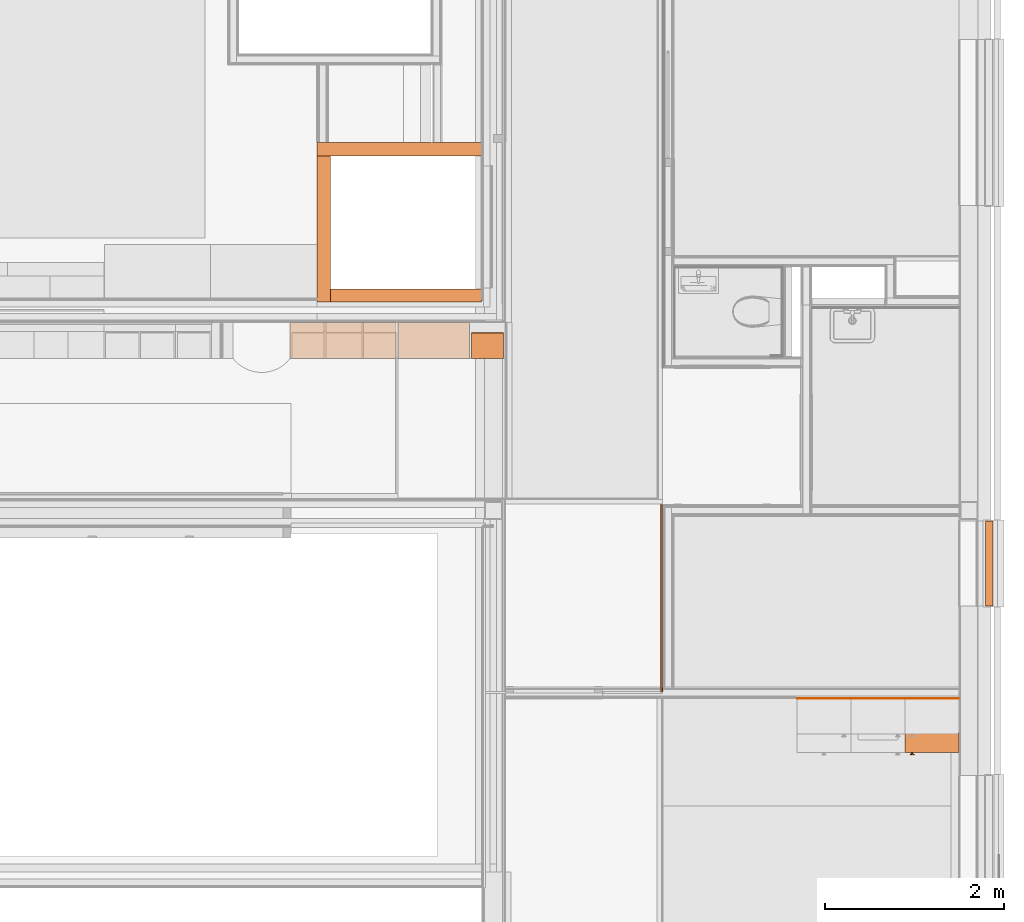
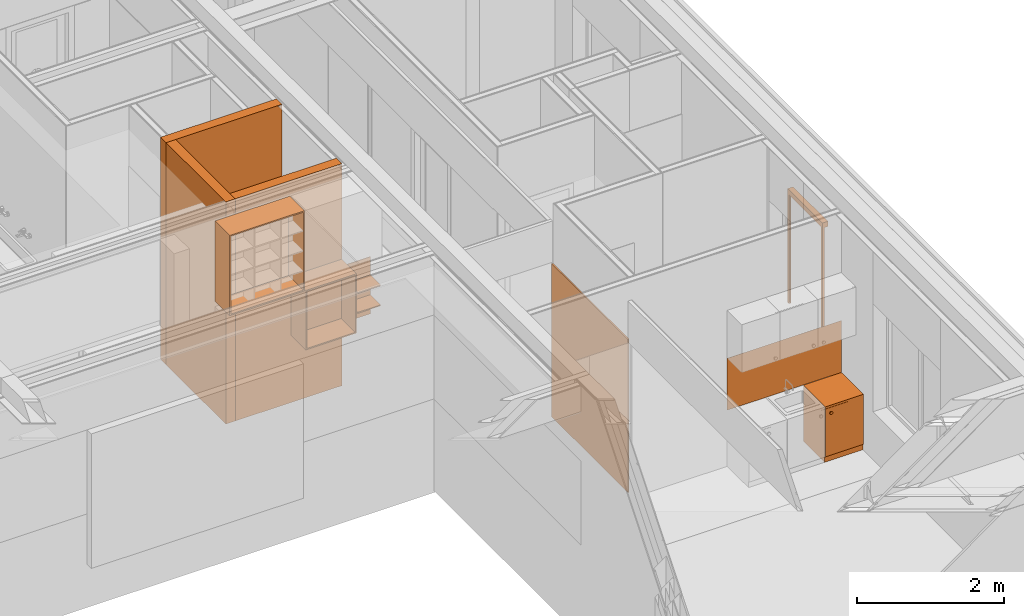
# One storey, part 131 of 137: 10 proxies.
"""IFC2X3 building model written with IfcOpenShell, lengths in millimetres."""

from ifc_helpers import new_model, entity, si_unit, converted_unit, derived_unit, money_unit, direction, frame, origin_with_axes, place, context, subcontext, project, spatial, open_shell, faceted_brep, surface_model, material, type_object, element, save


model = new_model("IFC2X3")

# Units and contexts
model_context = context("Model", 3, precision=0.01, world=origin_with_axes(), true_north=direction((0.0, 1.0)))
body_context = subcontext(model_context, "Body", "Model", "MODEL_VIEW")
ifc_project = project(units=[si_unit("LENGTHUNIT", "METRE", prefix="MILLI"), si_unit("AREAUNIT", "SQUARE_METRE"), si_unit("VOLUMEUNIT", "CUBIC_METRE"), converted_unit("PLANEANGLEUNIT", "DEGREE", entity("IfcPlaneAngleMeasure", 0.0174532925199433), si_unit("PLANEANGLEUNIT", "RADIAN"), dimensions=[0, 0, 0, 0, 0, 0, 0]), money_unit("EUR"), converted_unit("TIMEUNIT", "Year", entity("IfcTimeMeasure", 31556926.0), si_unit("TIMEUNIT", "SECOND"), dimensions=[0, 0, 1, 0, 0, 0, 0]), si_unit("MASSUNIT", "GRAM", prefix="KILO"), si_unit("THERMODYNAMICTEMPERATUREUNIT", "DEGREE_CELSIUS"), si_unit("LUMINOUSINTENSITYUNIT", "LUMEN"), si_unit("ENERGYUNIT", "JOULE", prefix="MEGA"), derived_unit("THERMALCONDUCTANCEUNIT", [(si_unit("POWERUNIT", "WATT"), 1), (si_unit("LENGTHUNIT", "METRE"), -1), (si_unit("THERMODYNAMICTEMPERATUREUNIT", "KELVIN"), -1)]), derived_unit("SPECIFICHEATCAPACITYUNIT", [(si_unit("ENERGYUNIT", "JOULE"), 1), (si_unit("MASSUNIT", "GRAM", prefix="KILO"), -1), (si_unit("THERMODYNAMICTEMPERATUREUNIT", "KELVIN"), -1)]), derived_unit("MASSDENSITYUNIT", [(si_unit("MASSUNIT", "GRAM", prefix="KILO"), 1), (si_unit("VOLUMEUNIT", "CUBIC_METRE"), -1)])], contexts=[model_context])

# Site, building, storey
site_placement = place(None, origin_with_axes())
site = spatial("IfcSite", under=ifc_project, at=site_placement, Name="Site", CompositionType="ELEMENT")
building_placement = place(site_placement, origin_with_axes())
building = spatial("IfcBuilding", under=site, at=building_placement, Name="Naam gebouw", CompositionType="ELEMENT")
storey_placement = place(building_placement, frame((0.0, 0.0, 3960.0), z_axis=(0.0, 0.0, 1.0), x_axis=(1.0, 0.0, 0.0)))
storey = spatial("IfcBuildingStorey", under=building, at=storey_placement, Name="1e verdieping", CompositionType="ELEMENT", Elevation=3960.0)

# Proxies
ifc_material_1 = material(Name="Steen - Kalkzandsteen C")
building_element_proxy_type_1 = type_object("IfcBuildingElementProxyType", Name="KZ 150 150", PredefinedType="NOTDEFINED")
proxy_1_placement = place(storey_placement, frame((22684.99903999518, 13279.99770206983, -100.0000000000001), z_axis=(0.0, 0.0, 1.0), x_axis=(1.0, 0.0, 0.0)))
element("IfcBuildingElementProxy", 1, at=proxy_1_placement, inside=storey, type_object=building_element_proxy_type_1, material=ifc_material_1, Name="f1 Gebonden met kalk_Wand-x", context=body_context, shape_type="Brep", body=[
    faceted_brep([(1680.0, -150.0000000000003, 3700.0), (1680.0, -150.0000000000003, 3695.000029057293), (1680.0, 0.0, 3695.000029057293), (1680.0, 0.0, 3700.0), (1614.999999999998, -150.0000000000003, 3685.000029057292), (1614.999999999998, -150.0000000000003, 3695.000029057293), (0.0, -150.0000000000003, 3700.0), (0.0, -150.0000000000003, 0.0), (1680.0, -150.0000000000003, 0.0), (1680.0, -150.0000000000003, 3685.000029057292), (1614.999999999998, 0.0, 3695.000029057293), (1614.999999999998, 0.0, 3685.000029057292), (1680.0, 0.0, 3685.000029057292), (1680.0, 0.0, 0.0), (0.0, 0.0, 0.0), (0.0, 0.0, 3700.0)], [[[0, 1, 2, 3]], [[4, 5, 1, 0, 6, 7, 8, 9]], [[5, 10, 2, 1]], [[10, 11, 12, 13, 14, 15, 3, 2]], [[15, 6, 0, 3]], [[4, 11, 10, 5]], [[6, 15, 14, 7]], [[7, 14, 13, 8]], [[13, 12, 9, 8]], [[4, 9, 12, 11]]]),
])
proxy_2_placement = place(storey_placement, frame((24364.99903999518, 14759.99770206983, -100.0000000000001), z_axis=(0.0, 0.0, 1.0), x_axis=(-1.0, 0.0, 0.0)))
element("IfcBuildingElementProxy", 2, at=proxy_2_placement, inside=storey, type_object=building_element_proxy_type_1, material=ifc_material_1, Name="f1 Gebonden met kalk_Wand-x", context=body_context, shape_type="Brep", body=[
    faceted_brep([(0.0, 0.0, 3700.0), (0.0, 0.0, 3695.000029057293), (0.0, -150.0000000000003, 3695.000029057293), (0.0, -150.0000000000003, 3700.0), (65.00000000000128, 0.0, 3685.000029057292), (65.00000000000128, 0.0, 3695.000029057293), (1829.999999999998, 0.0, 3700.0), (1829.999999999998, 0.0, 0.0), (0.0, 0.0, 0.0), (0.0, 0.0, 3685.000029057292), (65.00000000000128, -149.9999999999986, 3695.000029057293), (65.00000000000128, -149.9999999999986, 3685.000029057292), (0.0, -150.0000000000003, 3685.000029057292), (0.0, -150.0000000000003, 0.0), (1829.999999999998, -149.9999999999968, 0.0), (1829.999999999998, -149.9999999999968, 3700.0)], [[[0, 1, 2, 3]], [[4, 5, 1, 0, 6, 7, 8, 9]], [[5, 10, 2, 1]], [[10, 11, 12, 13, 14, 15, 3, 2]], [[3, 15, 6, 0]], [[4, 11, 10, 5]], [[15, 14, 7, 6]], [[8, 7, 14, 13]], [[13, 12, 9, 8]], [[4, 9, 12, 11]]]),
])
proxy_3_placement = place(storey_placement, frame((22684.99903999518, 14759.99770206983, -100.0000000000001), z_axis=(0.0, 0.0, 1.0), x_axis=(0.0, -1.0, 0.0)))
element("IfcBuildingElementProxy", 3, at=proxy_3_placement, inside=storey, type_object=building_element_proxy_type_1, material=ifc_material_1, Name="f1 Gebonden met kalk_Wand-x", context=body_context, shape_type="Brep", body=[
    faceted_brep([(1630.000000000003, 0.0, 0.0), (1630.000000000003, -149.9999999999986, 0.0), (0.0, -149.9999999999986, 0.0), (0.0, 0.0, 0.0), (1630.000000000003, 0.0, 3700.0), (1630.000000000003, -149.9999999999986, 3700.0), (0.0, -149.9999999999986, 3700.0), (0.0, 0.0, 3700.0)], [[[0, 1, 2, 3]], [[1, 0, 4, 5]], [[1, 5, 6, 2]], [[7, 3, 2, 6]], [[4, 0, 3, 7]], [[5, 4, 7, 6]]]),
])
ifc_material_2 = material(Name="ALG - ALGEMEEN")
building_element_proxy_type_2 = type_object("IfcBuildingElementProxyType", Name="ALG - ALGEMEEN 20", PredefinedType="NOTDEFINED")
proxy_4_placement = place(storey_placement, frame((26386.00000000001, 10872.50011055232, 49.99999999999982), z_axis=(0.0, 0.0, 1.0), x_axis=(0.0, -1.0, 0.0)))
element("IfcBuildingElementProxy", 4, at=proxy_4_placement, inside=storey, type_object=building_element_proxy_type_2, material=ifc_material_2, Name="_Wand-x", context=body_context, shape_type="Brep", body=[
    faceted_brep([(0.0, -19.99999999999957, 2550.0), (2082.500110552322, -19.99999999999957, 2550.0), (2082.500110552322, 0.0, 2550.0), (0.0, 0.0, 2550.0), (0.0, -19.99999999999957, 0.0), (2082.500110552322, -19.99999999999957, 0.0), (2082.500110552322, 0.0, 0.0), (0.0, 0.0, 0.0)], [[[0, 1, 2, 3]], [[4, 5, 1, 0]], [[2, 1, 5, 6]], [[3, 2, 6, 7]], [[4, 0, 3, 7]], [[7, 6, 5, 4]]]),
])
ifc_material_3 = material(Name="Hout - Multiplex")
building_element_proxy_type_3 = type_object("IfcBuildingElementProxyType", Name="Hout - Multiplex 1", PredefinedType="NOTDEFINED")
proxy_5_placement = place(storey_placement, frame((27886.00001122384, 8714.0, 937.0000000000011), z_axis=(0.0, 0.0, 1.0), x_axis=(1.0, 0.0, 0.0)))
element("IfcBuildingElementProxy", 5, at=proxy_5_placement, inside=storey, type_object=building_element_proxy_type_3, material=ifc_material_3, Name="i4 In lagen verlijmd hout_Leeg", context=body_context, shape_type="Brep", body=[
    faceted_brep([(0.0, 0.9999999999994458, 0.0), (1799.999988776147, 0.9999999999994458, 0.0), (1799.999988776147, 0.0, 0.0), (0.0, 0.0, 0.0), (0.0, 0.9999999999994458, 864.9999999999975), (1799.999988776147, 0.9999999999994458, 864.9999999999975), (1799.999988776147, 0.0, 864.9999999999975), (0.0, 0.0, 864.9999999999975)], [[[0, 1, 2, 3]], [[4, 5, 1, 0]], [[2, 1, 5, 6]], [[3, 2, 6, 7]], [[4, 0, 3, 7]], [[7, 6, 5, 4]]]),
])
building_element_proxy_type_4 = type_object("IfcBuildingElementProxyType", Name="Onderkast recht 26", PredefinedType="NOTDEFINED")
proxy_6_placement = place(storey_placement, frame((24234.99903999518, 12904.99778166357, 1199.999999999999), z_axis=(0.0, 0.0, 1.0), x_axis=(1.0, 0.0, 0.0)))
element("IfcBuildingElementProxy", 6, at=proxy_6_placement, inside=storey, type_object=building_element_proxy_type_4, Name="_Leeg", context=body_context, shape_type="Brep", body=[
    faceted_brep([(-20.0, -400.0000000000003, 0.0), (-20.0, -400.0000000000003, 20.0), (-779.9999999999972, -400.0000000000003, 20.0), (-779.9999999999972, -400.0000000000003, 0.0), (-20.0, 0.0, 0.0), (-20.0, 0.0, 20.0), (-779.9999999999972, 0.0, 20.0), (-779.9999999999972, 0.0, 0.0)], [[[0, 1, 2, 3]], [[4, 5, 1, 0]], [[1, 5, 6, 2]], [[3, 2, 6, 7]], [[0, 3, 7, 4]], [[7, 6, 5, 4]]]),
    faceted_brep([(-20.0, -400.0000000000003, 970.0000000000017), (-20.0, -400.0000000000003, 990.0000000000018), (-779.9999999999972, -400.0000000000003, 990.0000000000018), (-779.9999999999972, -400.0000000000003, 970.0000000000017), (-20.0, 0.0, 970.0000000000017), (-20.0, 0.0, 990.0000000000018), (-779.9999999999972, 0.0, 990.0000000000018), (-779.9999999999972, 0.0, 970.0000000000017)], [[[0, 1, 2, 3]], [[4, 5, 1, 0]], [[1, 5, 6, 2]], [[3, 2, 6, 7]], [[0, 3, 7, 4]], [[7, 6, 5, 4]]]),
    faceted_brep([(0.0, 0.0, 0.0), (0.0, 0.0, 990.0000000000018), (0.0, -400.0000000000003, 990.0000000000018), (0.0, -400.0000000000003, 0.0), (-20.0, 0.0, 0.0), (-20.0, 0.0, 990.0000000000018), (-20.0, -400.0000000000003, 990.0000000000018), (-20.0, -400.0000000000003, 0.0)], [[[0, 1, 2, 3]], [[4, 5, 1, 0]], [[1, 5, 6, 2]], [[3, 2, 6, 7]], [[0, 3, 7, 4]], [[7, 6, 5, 4]]]),
    faceted_brep([(-799.9999999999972, -400.0000000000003, 0.0), (-799.9999999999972, -400.0000000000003, 990.0000000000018), (-799.9999999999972, 0.0, 990.0000000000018), (-799.9999999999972, 0.0, 0.0), (-779.9999999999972, -400.0000000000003, 0.0), (-779.9999999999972, -400.0000000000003, 990.0000000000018), (-779.9999999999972, 0.0, 990.0000000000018), (-779.9999999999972, 0.0, 0.0)], [[[0, 1, 2, 3]], [[4, 5, 1, 0]], [[1, 5, 6, 2]], [[3, 2, 6, 7]], [[0, 3, 7, 4]], [[7, 6, 5, 4]]]),
    faceted_brep([(-779.9999999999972, -10.0, 20.0), (-779.9999999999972, -10.0, 970.0000000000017), (-20.00000000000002, -10.0, 970.0000000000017), (-20.00000000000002, -10.0, 20.0), (-779.9999999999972, -20.0, 20.0), (-779.9999999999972, -20.0, 970.0000000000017), (-20.00000000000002, -20.0, 970.0000000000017), (-20.00000000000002, -20.0, 20.0)], [[[0, 1, 2, 3]], [[4, 5, 1, 0]], [[1, 5, 6, 2]], [[3, 2, 6, 7]], [[0, 3, 7, 4]], [[7, 6, 5, 4]]]),
])
proxy_7_placement = place(storey_placement, frame((24634.99903999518, 12804.99778166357, 1199.999999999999), z_axis=(0.0, 0.0, 1.0), x_axis=(1.0, 0.0, 0.0)))
element("IfcBuildingElementProxy", 7, at=proxy_7_placement, inside=storey, type_object=building_element_proxy_type_4, Name="_Leeg", context=body_context, shape_type="Brep", body=[
    faceted_brep([(-379.999999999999, -300.0000000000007, 321.0000000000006), (-19.99999999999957, -300.0000000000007, 321.0000000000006), (-19.99999999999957, -300.0000000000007, 339.0000000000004), (-379.999999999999, -300.0000000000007, 339.0000000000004), (-19.99999999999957, -19.99999999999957, 321.0000000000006), (-379.999999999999, -19.99999999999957, 321.0000000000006), (-19.99999999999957, -19.99999999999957, 339.0000000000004), (-379.999999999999, -19.99999999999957, 339.0000000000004)], [[[0, 1, 2, 3]], [[4, 1, 0, 5]], [[1, 4, 6, 2]], [[3, 2, 6, 7]], [[5, 0, 3, 7]], [[4, 5, 7, 6]]]),
    faceted_brep([(-379.999999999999, -300.0000000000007, 651.0000000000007), (-19.99999999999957, -300.0000000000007, 651.0000000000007), (-19.99999999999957, -300.0000000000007, 669.0000000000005), (-379.999999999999, -300.0000000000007, 669.0000000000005), (-19.99999999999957, -19.99999999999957, 651.0000000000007), (-379.999999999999, -19.99999999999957, 651.0000000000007), (-19.99999999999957, -19.99999999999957, 669.0000000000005), (-379.999999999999, -19.99999999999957, 669.0000000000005)], [[[0, 1, 2, 3]], [[4, 1, 0, 5]], [[1, 4, 6, 2]], [[3, 2, 6, 7]], [[5, 0, 3, 7]], [[4, 5, 7, 6]]]),
    faceted_brep([(-19.99999999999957, -9.999999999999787, 19.99999999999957), (-379.999999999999, -9.999999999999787, 19.99999999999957), (-379.999999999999, -9.999999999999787, 970.0000000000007), (-19.99999999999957, -9.999999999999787, 970.0000000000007), (-379.999999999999, -19.99999999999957, 19.99999999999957), (-19.99999999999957, -19.99999999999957, 19.99999999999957), (-379.999999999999, -19.99999999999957, 970.0000000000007), (-19.99999999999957, -19.99999999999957, 970.0000000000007)], [[[0, 1, 2, 3]], [[4, 1, 0, 5]], [[1, 4, 6, 2]], [[3, 2, 6, 7]], [[5, 0, 3, 7]], [[4, 5, 7, 6]]]),
])
proxy_8_placement = place(storey_placement, frame((29686.00001122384, 8715.0, 0.0), z_axis=(0.0, 0.0, 1.0), x_axis=(1.0, 0.0, 0.0)))
element("IfcBuildingElementProxy", 8, at=proxy_8_placement, inside=storey, type_object=building_element_proxy_type_4, Name="_Leeg", context=body_context, shape_type="Brep", body=[
    faceted_brep([(0.0, -600.0, 900.0), (0.0, -600.0, 935.0), (-600.0, -600.0, 935.0), (-600.0, -600.0, 900.0), (0.0, 0.0, 900.0), (0.0, 0.0, 935.0), (-600.0, 0.0, 935.0), (-600.0, 0.0, 900.0)], [[[0, 1, 2, 3]], [[4, 5, 1, 0]], [[1, 5, 6, 2]], [[3, 2, 6, 7]], [[0, 3, 7, 4]], [[7, 6, 5, 4]]]),
    faceted_brep([(-531.817693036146, -600.0, 817.9162218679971), (-531.9999999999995, -600.0, 820.0000000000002), (-531.8176930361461, -600.0, 822.0837781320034), (-531.2763114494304, -600.0, 824.1042417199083), (-530.3923048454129, -600.0, 826.0000000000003), (-529.1925333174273, -600.0, 827.7134513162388), (-527.713451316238, -600.0, 829.192533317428), (-525.9999999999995, -600.0, 830.3923048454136), (-524.1042417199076, -600.0, 831.2763114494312), (-522.0837781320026, -600.0, 831.8176930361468), (-519.9999999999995, -600.0, 832.0000000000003), (-517.9162218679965, -600.0, 831.8176930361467), (-515.8957582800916, -600.0, 831.2763114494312), (-513.9999999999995, -600.0, 830.3923048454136), (-512.2865486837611, -600.0, 829.192533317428), (-510.8074666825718, -600.0, 827.7134513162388), (-509.6076951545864, -600.0, 826.0000000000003), (-508.7236885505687, -600.0, 824.1042417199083), (-508.1823069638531, -600.0, 822.0837781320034), (-507.9999999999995, -600.0, 820.0000000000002), (-508.1823069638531, -600.0, 817.9162218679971), (-508.7236885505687, -600.0, 815.8957582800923), (-509.6076951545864, -600.0, 814.0000000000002), (-510.8074666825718, -600.0, 812.2865486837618), (-512.2865486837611, -600.0, 810.8074666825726), (-513.9999999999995, -600.0, 809.6076951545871), (-515.8957582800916, -600.0, 808.7236885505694), (-517.9162218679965, -600.0, 808.1823069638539), (-519.9999999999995, -600.0, 808.0000000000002), (-522.0837781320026, -600.0, 808.1823069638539), (-524.1042417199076, -600.0, 808.7236885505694), (-525.9999999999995, -600.0, 809.6076951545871), (-527.713451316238, -600.0, 810.8074666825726), (-529.1925333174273, -600.0, 812.2865486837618), (-530.3923048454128, -600.0, 814.0000000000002), (-531.2763114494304, -600.0, 815.8957582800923), (-531.817693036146, -620.0, 817.9162218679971), (-531.9999999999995, -620.0, 820.0000000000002), (-531.8176930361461, -620.0, 822.0837781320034), (-531.2763114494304, -620.0, 824.1042417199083), (-530.3923048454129, -620.0, 826.0000000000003), (-529.1925333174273, -620.0, 827.7134513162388), (-527.713451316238, -620.0, 829.192533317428), (-525.9999999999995, -620.0, 830.3923048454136), (-524.1042417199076, -620.0, 831.2763114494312), (-522.0837781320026, -620.0, 831.8176930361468), (-519.9999999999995, -620.0, 832.0000000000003), (-517.9162218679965, -620.0, 831.8176930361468), (-515.8957582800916, -620.0, 831.2763114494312), (-513.9999999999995, -620.0, 830.3923048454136), (-512.2865486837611, -620.0, 829.192533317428), (-510.8074666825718, -620.0, 827.7134513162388), (-509.6076951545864, -620.0, 826.0000000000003), (-508.7236885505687, -620.0, 824.1042417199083), (-508.1823069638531, -620.0, 822.0837781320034), (-507.9999999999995, -620.0, 820.0000000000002), (-508.1823069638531, -620.0, 817.9162218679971), (-508.7236885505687, -620.0, 815.8957582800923), (-509.6076951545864, -620.0, 814.0000000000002), (-510.8074666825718, -620.0, 812.2865486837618), (-512.2865486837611, -620.0, 810.8074666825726), (-513.9999999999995, -620.0, 809.6076951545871), (-515.8957582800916, -620.0, 808.7236885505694), (-517.9162218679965, -620.0, 808.1823069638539), (-519.9999999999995, -620.0, 808.0000000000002), (-522.0837781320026, -620.0, 808.1823069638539), (-524.1042417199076, -620.0, 808.7236885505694), (-525.9999999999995, -620.0, 809.6076951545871), (-527.713451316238, -620.0, 810.8074666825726), (-529.1925333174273, -620.0, 812.2865486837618), (-530.3923048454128, -620.0, 814.0000000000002), (-531.2763114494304, -620.0, 815.8957582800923)], [[[0, 1, 2, 3, 4, 5, 6, 7, 8, 9, 10, 11, 12, 13, 14, 15, 16, 17, 18, 19, 20, 21, 22, 23, 24, 25, 26, 27, 28, 29, 30, 31, 32, 33, 34, 35]], [[0, 36, 37, 1]], [[1, 37, 38, 2]], [[2, 38, 39, 3]], [[3, 39, 40, 4]], [[4, 40, 41, 5]], [[5, 41, 42, 6]], [[6, 42, 43, 7]], [[7, 43, 44, 8]], [[8, 44, 45, 9]], [[9, 45, 46, 10]], [[10, 46, 47, 11]], [[11, 47, 48, 12]], [[12, 48, 49, 13]], [[13, 49, 50, 14]], [[14, 50, 51, 15]], [[15, 51, 52, 16]], [[16, 52, 53, 17]], [[17, 53, 54, 18]], [[18, 54, 55, 19]], [[19, 55, 56, 20]], [[20, 56, 57, 21]], [[21, 57, 58, 22]], [[22, 58, 59, 23]], [[23, 59, 60, 24]], [[24, 60, 61, 25]], [[25, 61, 62, 26]], [[26, 62, 63, 27]], [[27, 63, 64, 28]], [[28, 64, 65, 29]], [[29, 65, 66, 30]], [[30, 66, 67, 31]], [[31, 67, 68, 32]], [[32, 68, 69, 33]], [[33, 69, 70, 34]], [[34, 70, 71, 35]], [[35, 71, 36, 0]], [[36, 71, 70, 69, 68, 67, 66, 65, 64, 63, 62, 61, 60, 59, 58, 57, 56, 55, 54, 53, 52, 51, 50, 49, 48, 47, 46, 45, 44, 43, 42, 41, 40, 39, 38, 37]]]),
    faceted_brep([(-543.6353860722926, -620.0, 815.8324437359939), (-543.9999999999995, -620.0, 820.0000000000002), (-543.6353860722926, -620.0, 824.1675562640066), (-542.5526228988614, -620.0, 828.2084834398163), (-540.7846096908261, -620.0, 832.0000000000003), (-538.3850666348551, -620.0, 835.4269026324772), (-535.4269026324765, -620.0, 838.3850666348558), (-531.9999999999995, -620.0, 840.7846096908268), (-528.2084834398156, -620.0, 842.5526228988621), (-524.167556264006, -620.0, 843.6353860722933), (-519.9999999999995, -620.0, 844.0000000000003), (-515.8324437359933, -620.0, 843.6353860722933), (-511.7915165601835, -620.0, 842.5526228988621), (-507.9999999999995, -620.0, 840.7846096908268), (-504.5730973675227, -620.0, 838.3850666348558), (-501.6149333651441, -620.0, 835.4269026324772), (-499.2153903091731, -620.0, 832.0000000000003), (-497.4473771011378, -620.0, 828.2084834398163), (-496.3646139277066, -620.0, 824.1675562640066), (-495.9999999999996, -620.0, 820.0000000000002), (-496.3646139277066, -620.0, 815.8324437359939), (-497.4473771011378, -620.0, 811.7915165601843), (-499.2153903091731, -620.0, 808.0000000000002), (-501.6149333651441, -620.0, 804.5730973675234), (-504.5730973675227, -620.0, 801.6149333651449), (-507.9999999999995, -620.0, 799.2153903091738), (-511.7915165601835, -620.0, 797.4473771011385), (-515.8324437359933, -620.0, 796.3646139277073), (-519.9999999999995, -620.0, 796.0000000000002), (-524.167556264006, -620.0, 796.3646139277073), (-528.2084834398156, -620.0, 797.4473771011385), (-531.9999999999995, -620.0, 799.2153903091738), (-535.4269026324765, -620.0, 801.6149333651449), (-538.385066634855, -620.0, 804.5730973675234), (-540.7846096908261, -620.0, 808.0000000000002), (-542.5526228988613, -620.0, 811.7915165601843), (-543.6353860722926, -630.0, 815.8324437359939), (-543.9999999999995, -630.0, 820.0000000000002), (-543.6353860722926, -630.0, 824.1675562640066), (-542.5526228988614, -630.0, 828.2084834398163), (-540.7846096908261, -630.0, 832.0000000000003), (-538.3850666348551, -630.0, 835.4269026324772), (-535.4269026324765, -630.0, 838.3850666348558), (-531.9999999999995, -630.0, 840.7846096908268), (-528.2084834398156, -630.0, 842.5526228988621), (-524.167556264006, -630.0, 843.6353860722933), (-519.9999999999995, -630.0, 844.0000000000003), (-515.8324437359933, -630.0, 843.6353860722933), (-511.7915165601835, -630.0, 842.5526228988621), (-507.9999999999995, -630.0, 840.7846096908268), (-504.5730973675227, -630.0, 838.3850666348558), (-501.6149333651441, -630.0, 835.4269026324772), (-499.2153903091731, -630.0, 832.0000000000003), (-497.4473771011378, -630.0, 828.2084834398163), (-496.3646139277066, -630.0, 824.1675562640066), (-495.9999999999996, -630.0, 820.0000000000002), (-496.3646139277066, -630.0, 815.8324437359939), (-497.4473771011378, -630.0, 811.7915165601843), (-499.2153903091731, -630.0, 808.0000000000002), (-501.6149333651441, -630.0, 804.5730973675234), (-504.5730973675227, -630.0, 801.6149333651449), (-507.9999999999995, -630.0, 799.2153903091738), (-511.7915165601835, -630.0, 797.4473771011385), (-515.8324437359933, -630.0, 796.3646139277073), (-519.9999999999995, -630.0, 796.0000000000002), (-524.167556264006, -630.0, 796.3646139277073), (-528.2084834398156, -630.0, 797.4473771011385), (-531.9999999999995, -630.0, 799.2153903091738), (-535.4269026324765, -630.0, 801.6149333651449), (-538.385066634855, -630.0, 804.5730973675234), (-540.7846096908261, -630.0, 808.0000000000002), (-542.5526228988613, -630.0, 811.7915165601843)], [[[0, 1, 2, 3, 4, 5, 6, 7, 8, 9, 10, 11, 12, 13, 14, 15, 16, 17, 18, 19, 20, 21, 22, 23, 24, 25, 26, 27, 28, 29, 30, 31, 32, 33, 34, 35]], [[0, 36, 37, 1]], [[1, 37, 38, 2]], [[2, 38, 39, 3]], [[3, 39, 40, 4]], [[4, 40, 41, 5]], [[5, 41, 42, 6]], [[6, 42, 43, 7]], [[7, 43, 44, 8]], [[8, 44, 45, 9]], [[9, 45, 46, 10]], [[10, 46, 47, 11]], [[11, 47, 48, 12]], [[12, 48, 49, 13]], [[13, 49, 50, 14]], [[14, 50, 51, 15]], [[15, 51, 52, 16]], [[16, 52, 53, 17]], [[17, 53, 54, 18]], [[18, 54, 55, 19]], [[19, 55, 56, 20]], [[20, 56, 57, 21]], [[21, 57, 58, 22]], [[22, 58, 59, 23]], [[23, 59, 60, 24]], [[24, 60, 61, 25]], [[25, 61, 62, 26]], [[26, 62, 63, 27]], [[27, 63, 64, 28]], [[28, 64, 65, 29]], [[29, 65, 66, 30]], [[30, 66, 67, 31]], [[31, 67, 68, 32]], [[32, 68, 69, 33]], [[33, 69, 70, 34]], [[34, 70, 71, 35]], [[35, 71, 36, 0]], [[36, 71, 70, 69, 68, 67, 66, 65, 64, 63, 62, 61, 60, 59, 58, 57, 56, 55, 54, 53, 52, 51, 50, 49, 48, 47, 46, 45, 44, 43, 42, 41, 40, 39, 38, 37]]]),
    faceted_brep([(-1.0, -582.0, 101.0), (-1.0, -600.0, 101.0), (-599.0, -600.0, 101.0), (-599.0, -582.0, 101.0), (-1.0, -582.0, 899.0), (-1.0, -599.9999999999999, 899.0), (-599.0, -599.9999999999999, 899.0), (-599.0, -582.0, 899.0)], [[[0, 1, 2, 3]], [[4, 5, 1, 0]], [[1, 5, 6, 2]], [[3, 2, 6, 7]], [[0, 3, 7, 4]], [[7, 6, 5, 4]]]),
    faceted_brep([(-18.0, -582.0, 100.0), (-18.0, -582.0, 118.0), (-582.0, -582.0, 118.0), (-582.0, -582.0, 100.0), (-18.0, 0.0, 100.0), (-18.0, 0.0, 118.0), (-582.0, 0.0, 118.0), (-582.0, 0.0, 100.0)], [[[0, 1, 2, 3]], [[4, 5, 1, 0]], [[1, 5, 6, 2]], [[3, 2, 6, 7]], [[0, 3, 7, 4]], [[7, 6, 5, 4]]]),
    faceted_brep([(-18.0, -582.0, 882.0), (-582.0, -582.0, 882.0), (-582.0, -522.0, 882.0), (-18.0, -522.0, 882.0), (-18.0, -582.0, 900.0), (-582.0, -582.0, 900.0), (-582.0, -522.0, 900.0), (-18.0, -522.0, 900.0)], [[[0, 1, 2, 3]], [[4, 5, 1, 0]], [[1, 5, 6, 2]], [[3, 2, 6, 7]], [[0, 3, 7, 4]], [[7, 6, 5, 4]]]),
    faceted_brep([(-582.0, 0.0, 882.0), (-18.0, 0.0, 882.0), (-18.0, -60.0, 882.0), (-582.0, -60.0, 882.0), (-582.0, 0.0, 900.0), (-18.0, 0.0, 900.0), (-18.0, -60.0, 900.0), (-582.0, -60.0, 900.0)], [[[0, 1, 2, 3]], [[4, 5, 1, 0]], [[1, 5, 6, 2]], [[3, 2, 6, 7]], [[0, 3, 7, 4]], [[7, 6, 5, 4]]]),
    faceted_brep([(0.0, 0.0, 100.0), (0.0, 0.0, 900.0), (0.0, -582.0, 900.0), (0.0, -582.0, 100.0), (-18.0, 0.0, 100.0), (-18.0, 0.0, 900.0), (-18.0, -582.0, 900.0), (-18.0, -582.0, 100.0)], [[[0, 1, 2, 3]], [[4, 5, 1, 0]], [[1, 5, 6, 2]], [[3, 2, 6, 7]], [[0, 3, 7, 4]], [[7, 6, 5, 4]]]),
    faceted_brep([(-600.0, -582.0, 100.0), (-600.0, -582.0, 900.0), (-600.0, 0.0, 900.0), (-600.0, 0.0, 100.0), (-582.0, -582.0, 100.0), (-582.0, -582.0, 900.0), (-582.0, 0.0, 900.0), (-582.0, 0.0, 100.0)], [[[0, 1, 2, 3]], [[4, 5, 1, 0]], [[1, 5, 6, 2]], [[3, 2, 6, 7]], [[0, 3, 7, 4]], [[7, 6, 5, 4]]]),
    faceted_brep([(-582.0, -9.0, 118.0), (-582.0, -9.0, 882.0), (-18.00000000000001, -9.0, 882.0), (-18.00000000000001, -9.0, 118.0), (-582.0, -18.0, 118.0), (-582.0, -18.0, 882.0), (-18.00000000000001, -18.0, 882.0), (-18.00000000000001, -18.0, 118.0)], [[[0, 1, 2, 3]], [[4, 5, 1, 0]], [[1, 5, 6, 2]], [[3, 2, 6, 7]], [[0, 3, 7, 4]], [[7, 6, 5, 4]]]),
    faceted_brep([(0.0, -582.0, 0.0), (0.0, -582.0, 100.0), (-600.0, -582.0, 100.0), (-600.0, -582.0, 0.0), (0.0, 0.0, 0.0), (0.0, 0.0, 100.0), (-600.0, 0.0, 100.0), (-600.0, 0.0, 0.0)], [[[0, 1, 2, 3]], [[4, 5, 1, 0]], [[1, 5, 6, 2]], [[3, 2, 6, 7]], [[0, 3, 7, 4]], [[7, 6, 5, 4]]]),
])
proxy_9_placement = place(storey_placement, frame((22234.99903999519, 12504.99778166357, 2190.000000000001), z_axis=(0.0, 0.0, 1.0), x_axis=(-1.0, 0.0, 0.0)))
element("IfcBuildingElementProxy", 9, at=proxy_9_placement, inside=storey, type_object=building_element_proxy_type_4, Name="_Leeg", context=body_context, shape_type="Brep", body=[
    faceted_brep([(-20.0, -399.9999999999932, 0.0), (-20.0, -399.9999999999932, 20.0), (-1159.999999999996, -399.9999999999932, 20.0), (-1159.999999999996, -399.9999999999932, 0.0), (-20.0, 0.0, 0.0), (-20.0, 0.0, 20.0), (-1159.999999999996, 0.0, 20.0), (-1159.999999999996, 0.0, 0.0)], [[[0, 1, 2, 3]], [[4, 5, 1, 0]], [[1, 5, 6, 2]], [[3, 2, 6, 7]], [[0, 3, 7, 4]], [[7, 6, 5, 4]]]),
    faceted_brep([(-20.0, -399.9999999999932, 1317.0), (-20.0, -399.9999999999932, 1337.0), (-1159.999999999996, -399.9999999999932, 1337.0), (-1159.999999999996, -399.9999999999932, 1317.0), (-20.0, 0.0, 1317.0), (-20.0, 0.0, 1337.0), (-1159.999999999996, 0.0, 1337.0), (-1159.999999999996, 0.0, 1317.0)], [[[0, 1, 2, 3]], [[4, 5, 1, 0]], [[1, 5, 6, 2]], [[3, 2, 6, 7]], [[0, 3, 7, 4]], [[7, 6, 5, 4]]]),
    faceted_brep([(0.0, 0.0, 0.0), (0.0, 0.0, 1337.0), (0.0, -399.9999999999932, 1337.0), (0.0, -399.9999999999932, 0.0), (-20.0, 0.0, 0.0), (-20.0, 0.0, 1337.0), (-20.0, -399.9999999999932, 1337.0), (-20.0, -399.9999999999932, 0.0)], [[[0, 1, 2, 3]], [[4, 5, 1, 0]], [[1, 5, 6, 2]], [[3, 2, 6, 7]], [[0, 3, 7, 4]], [[7, 6, 5, 4]]]),
    faceted_brep([(-1179.999999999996, -399.9999999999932, 0.0), (-1179.999999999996, -399.9999999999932, 1337.0), (-1179.999999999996, 0.0, 1337.0), (-1179.999999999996, 0.0, 0.0), (-1159.999999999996, -399.9999999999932, 0.0), (-1159.999999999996, -399.9999999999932, 1337.0), (-1159.999999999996, 0.0, 1337.0), (-1159.999999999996, 0.0, 0.0)], [[[0, 1, 2, 3]], [[4, 5, 1, 0]], [[1, 5, 6, 2]], [[3, 2, 6, 7]], [[0, 3, 7, 4]], [[7, 6, 5, 4]]]),
])
building_element_proxy_type_5 = type_object("IfcBuildingElementProxyType", Name="Screen 26 KM", PredefinedType="NOTDEFINED")
proxy_10_placement = place(storey_placement, frame((29981.99999999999, 9745.000110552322, 794.9999999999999), z_axis=(0.0, 0.0, 1.0), x_axis=(0.0, 1.0, 0.0)))
element("IfcBuildingElementProxy", 10, at=proxy_10_placement, inside=storey, type_object=building_element_proxy_type_5, Name="_Object-x", context=body_context, shape_type="SurfaceModel", body=[
    faceted_brep([(0.0, 0.0, 0.0), (0.0, -30.0, 0.0), (0.0, -30.0, 1815.0), (0.0, 0.0, 1815.0), (40.0, 0.0, 0.0), (40.0, -4.999999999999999, 0.0), (37.0, -4.999999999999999, 0.0), (37.0, -3.0, 0.0), (3.0, -3.0, 0.0), (3.0, -27.0, 0.0), (37.0, -27.0, 0.0), (37.0, -25.0, 0.0), (40.0, -25.0, 0.0), (40.0, -30.0, 0.0), (40.0, -30.0, 1815.0), (40.0, -25.0, 1815.0), (37.0, -25.0, 1815.0), (37.0, -27.0, 1815.0), (3.0, -27.0, 1815.0), (3.0, -3.0, 1815.0), (37.0, -3.0, 1815.0), (37.0, -4.999999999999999, 1815.0), (40.0, -4.999999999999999, 1815.0), (40.0, 0.0, 1815.0)], [[[0, 1, 2, 3]], [[0, 4, 5, 6, 7, 8, 9, 10, 11, 12, 13, 1]], [[1, 13, 14, 2]], [[3, 2, 14, 15, 16, 17, 18, 19, 20, 21, 22, 23]], [[4, 0, 3, 23]], [[5, 4, 23, 22]], [[6, 5, 22, 21]], [[7, 6, 21, 20]], [[8, 7, 20, 19]], [[9, 8, 19, 18]], [[10, 9, 18, 17]], [[11, 10, 17, 16]], [[12, 11, 16, 15]], [[13, 12, 15, 14]]]),
    faceted_brep([(950.0000000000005, 0.0, 0.0), (950.0000000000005, 0.0, 1815.0), (950.0000000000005, -30.0, 1815.0), (950.0000000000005, -30.0, 0.0), (910.0000000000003, 0.0, 0.0), (910.0000000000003, 0.0, 1815.0), (910.0000000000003, -4.999999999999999, 1815.0), (913.0000000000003, -4.999999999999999, 1815.0), (913.0000000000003, -3.0, 1815.0), (947.0000000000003, -3.0, 1815.0), (947.0000000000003, -27.0, 1815.0), (913.0000000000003, -27.0, 1815.0), (913.0000000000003, -25.0, 1815.0), (910.0000000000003, -25.0, 1815.0), (910.0000000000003, -30.0, 1815.0), (910.0000000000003, -30.0, 0.0), (910.0000000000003, -25.0, 0.0), (913.0000000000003, -25.0, 0.0), (913.0000000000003, -27.0, 0.0), (947.0000000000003, -27.0, 0.0), (947.0000000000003, -3.0, 0.0), (913.0000000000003, -3.0, 0.0), (913.0000000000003, -4.999999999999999, 0.0), (910.0000000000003, -4.999999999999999, 0.0)], [[[0, 1, 2, 3]], [[4, 5, 1, 0]], [[1, 5, 6, 7, 8, 9, 10, 11, 12, 13, 14, 2]], [[3, 2, 14, 15]], [[0, 3, 15, 16, 17, 18, 19, 20, 21, 22, 23, 4]], [[23, 6, 5, 4]], [[22, 7, 6, 23]], [[21, 8, 7, 22]], [[20, 9, 8, 21]], [[19, 10, 9, 20]], [[18, 11, 10, 19]], [[17, 12, 11, 18]], [[16, 13, 12, 17]], [[15, 14, 13, 16]]]),
    surface_model("IfcShellBasedSurfaceModel", [(0.0, 0.0, 1900.0), (0.0, 0.0, 1815.0), (0.0, -85.0, 1815.0), (0.0, -85.0, 1900.0)], [open_shell([[[0, 1, 2, 3]]])]),
    surface_model("IfcShellBasedSurfaceModel", [(0.01, 0.0, 1900.0), (0.009999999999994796, -85.0, 1900.0), (949.9900000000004, -85.00000000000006, 1900.0), (949.9900000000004, 0.0, 1900.0), (0.01000000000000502, 0.0, 1818.0), (0.01000000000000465, -6.0, 1818.0), (0.01000000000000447, -6.0, 1821.0), (0.01000000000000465, -3.0, 1821.0), (0.01, -3.0, 1897.0), (0.009999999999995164, -82.0, 1897.0), (0.01, -82.0, 1818.0), (0.01000000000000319, -30.0, 1818.0), (0.01000000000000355, -30.0, 1812.0), (0.01000000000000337, -33.0, 1812.0), (0.01000000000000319, -33.0, 1815.0), (0.01, -85.0, 1815.0), (949.9900000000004, -85.00000000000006, 1815.0), (949.9900000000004, -33.00000000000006, 1815.0), (949.9900000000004, -33.00000000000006, 1812.0), (949.9900000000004, -30.00000000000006, 1812.0), (949.9900000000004, -30.00000000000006, 1818.0), (949.9900000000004, -82.00000000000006, 1818.0), (949.9900000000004, -82.00000000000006, 1897.0), (949.9900000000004, -3.000000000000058, 1897.0), (949.9900000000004, -3.000000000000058, 1821.0), (949.9900000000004, -6.000000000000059, 1821.0), (949.9900000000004, -6.000000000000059, 1818.0), (949.9900000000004, 0.0, 1818.0)], [open_shell([[[0, 1, 2, 3]], [[0, 4, 5, 6, 7, 8, 9, 10, 11, 12, 13, 14, 15, 1]], [[1, 15, 16, 2]], [[3, 2, 16, 17, 18, 19, 20, 21, 22, 23, 24, 25, 26, 27]], [[4, 0, 3, 27]], [[13, 12, 19, 18]], [[14, 13, 18, 17]], [[15, 14, 17, 16]]])]),
    surface_model("IfcShellBasedSurfaceModel", [(949.9900000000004, 0.0, 1900.0), (949.9900000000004, 0.0, 1815.0), (949.9900000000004, -85.00000000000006, 1815.0), (949.9900000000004, -85.00000000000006, 1900.0)], [open_shell([[[0, 1, 2, 3]]])]),
])

save(model, "model.ifc")
